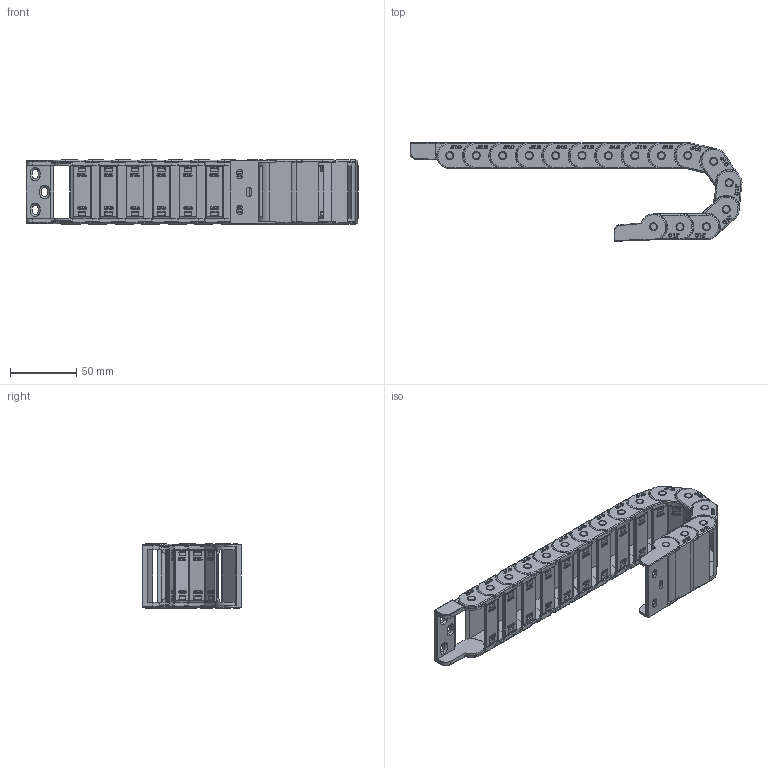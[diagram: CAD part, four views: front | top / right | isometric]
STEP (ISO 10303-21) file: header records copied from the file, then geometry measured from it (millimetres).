
FILE_DESCRIPTION (( 'STEP AP203' ), '1' );
FILE_NAME ('F5-15BF.1.40N-3D郪璃芞.STEP', '2017-04-17T08:03:36', ( 'china' ), ( 'china' ), 'SwSTEP 2.0', 'SolidWorks 2016', '' );
FILE_SCHEMA (( 'CONFIG_CONTROL_DESIGN' ));
Length unit declared in the file: millimetre
Products named in the file (6): FW5-15BFX40-1; FW15X40-XJT-N3D; FW15X40-XJT-W3D; F5-15BF.1.40N-3D郪璃芞; FW-15BF-1-40N-ZT3D; FW15X40-DP3D
Assembly tree (19 placements, depth 3):
  F5-15BF.1.40N-3D郪璃芞
    FW5-15BFX40-1  x15
      FW-15BF-1-40N-ZT3D
      FW15X40-DP3D
    FW15X40-XJT-N3D
    FW15X40-XJT-W3D
Bounding box: 250.9 x 74.46 x 49 mm (x, y, z)
Volume: 95559.9 mm3; surface area: 109186.6 mm2
Topology: 32 solids, 32 shells, 7553 faces, 19886 edges, 13063 vertices
Faces by surface type: plane 4222, bspline 2017, cylinder 974, torus 318, cone 18, sphere 4
Entity records: 40021 total; most frequent: CARTESIAN_POINT 17020, ORIENTED_EDGE 4928, DIRECTION 3801, EDGE_CURVE 2464, VECTOR 1693, LINE 1693, VERTEX_POINT 1609, AXIS2_PLACEMENT_3D 1054
